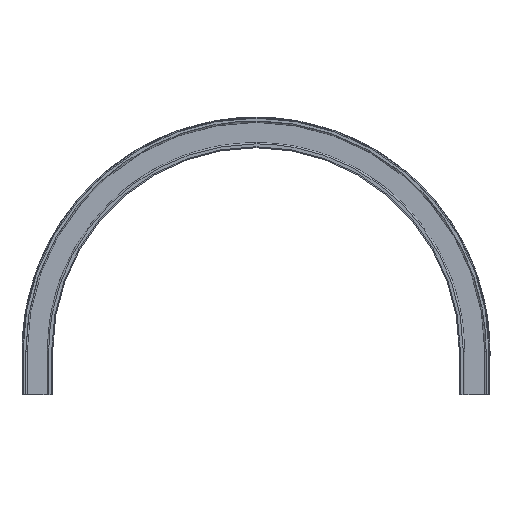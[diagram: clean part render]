
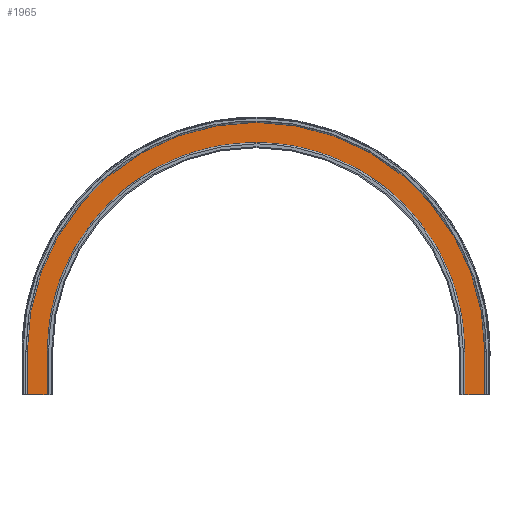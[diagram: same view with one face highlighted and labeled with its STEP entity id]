
A CAD part, front view. The second image highlights one B-rep face of the part: STEP entity #1965.
In plain terms, the highlighted planar face has unit normal (0, -1, 0).
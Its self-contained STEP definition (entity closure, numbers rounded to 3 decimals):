
#90 =( BOUNDED_CURVE ( )  B_SPLINE_CURVE ( 3, ( #3839, #3841, #3843, #3845 ),
 .UNSPECIFIED., .F., .T. ) 
 B_SPLINE_CURVE_WITH_KNOTS ( ( 4, 4 ),
 ( 0., 1. ),
 .UNSPECIFIED. ) 
 CURVE ( )  GEOMETRIC_REPRESENTATION_ITEM ( )  RATIONAL_B_SPLINE_CURVE ( ( 1., 0.805, 0.805, 1. ) ) 
 REPRESENTATION_ITEM ( '' )  );
#156 =( BOUNDED_CURVE ( )  B_SPLINE_CURVE ( 3, ( #7514, #7513, #7512, #7507 ),
 .UNSPECIFIED., .F., .T. ) 
 B_SPLINE_CURVE_WITH_KNOTS ( ( 4, 4 ),
 ( 0., 1. ),
 .UNSPECIFIED. ) 
 CURVE ( )  GEOMETRIC_REPRESENTATION_ITEM ( )  RATIONAL_B_SPLINE_CURVE ( ( 1., 0.805, 0.805, 1. ) ) 
 REPRESENTATION_ITEM ( '' )  );
#162 =( BOUNDED_CURVE ( )  B_SPLINE_CURVE ( 3, ( #3820, #3822, #3824, #3826 ),
 .UNSPECIFIED., .F., .F. ) 
 B_SPLINE_CURVE_WITH_KNOTS ( ( 4, 4 ),
 ( 0., 1. ),
 .UNSPECIFIED. ) 
 CURVE ( )  GEOMETRIC_REPRESENTATION_ITEM ( )  RATIONAL_B_SPLINE_CURVE ( ( 1., 0.805, 0.805, 1. ) ) 
 REPRESENTATION_ITEM ( '' )  );
#240 =( BOUNDED_CURVE ( )  B_SPLINE_CURVE ( 3, ( #7441, #7440, #7439, #7438 ),
 .UNSPECIFIED., .F., .T. ) 
 B_SPLINE_CURVE_WITH_KNOTS ( ( 4, 4 ),
 ( 0., 1. ),
 .UNSPECIFIED. ) 
 CURVE ( )  GEOMETRIC_REPRESENTATION_ITEM ( )  RATIONAL_B_SPLINE_CURVE ( ( 1., 0.805, 0.805, 1. ) ) 
 REPRESENTATION_ITEM ( '' )  );
#488 = AXIS2_PLACEMENT_3D ( 'NONE', #8371, #8370, #8369 ) ;
#1454 = CARTESIAN_POINT ( 'NONE',  ( 584.111, 246.202, 155.327 ) ) ;
#1710 = VERTEX_POINT ( 'NONE', #1454 ) ;
#1965 = ADVANCED_FACE ( 'NONE', ( #11752 ), #8372, .F. ) ;
#2997 = CARTESIAN_POINT ( 'NONE',  ( -415.889, 246.202, 55.327 ) ) ;
#3013 = CARTESIAN_POINT ( 'NONE',  ( 54.611, 246.202, 625.827 ) ) ;
#3031 = CARTESIAN_POINT ( 'NONE',  ( -474.889, 246.202, 155.327 ) ) ;
#3143 = CARTESIAN_POINT ( 'NONE',  ( 584.111, 246.202, 55.327 ) ) ;
#3193 = CARTESIAN_POINT ( 'NONE',  ( 525.111, 246.202, 55.327 ) ) ;
#3213 = CARTESIAN_POINT ( 'NONE',  ( 525.111, 246.202, 155.327 ) ) ;
#3479 = CARTESIAN_POINT ( 'NONE',  ( 54.611, 246.202, 684.827 ) ) ;
#3507 = CARTESIAN_POINT ( 'NONE',  ( -415.889, 246.202, 155.327 ) ) ;
#3669 = CARTESIAN_POINT ( 'NONE',  ( -474.889, 246.202, 55.327 ) ) ;
#3820 = CARTESIAN_POINT ( 'NONE',  ( 54.611, 246.202, 625.827 ) ) ;
#3822 = CARTESIAN_POINT ( 'NONE',  ( -221.002, 246.202, 625.827 ) ) ;
#3824 = CARTESIAN_POINT ( 'NONE',  ( -415.889, 246.202, 430.94 ) ) ;
#3826 = CARTESIAN_POINT ( 'NONE',  ( -415.889, 246.202, 155.327 ) ) ;
#3839 = CARTESIAN_POINT ( 'NONE',  ( -474.889, 246.202, 155.327 ) ) ;
#3841 = CARTESIAN_POINT ( 'NONE',  ( -474.889, 246.202, 465.501 ) ) ;
#3843 = CARTESIAN_POINT ( 'NONE',  ( -255.563, 246.202, 684.827 ) ) ;
#3845 = CARTESIAN_POINT ( 'NONE',  ( 54.611, 246.202, 684.827 ) ) ;
#6406 = EDGE_CURVE ( 'NONE', #10524, #1710, #156, .T. ) ;
#6410 = EDGE_CURVE ( 'NONE', #10620, #10287, #6944, .T. ) ;
#6431 = EDGE_CURVE ( 'NONE', #1710, #10343, #7280, .T. ) ;
#6446 = EDGE_CURVE ( 'NONE', #10368, #10378, #7257, .T. ) ;
#6450 = EDGE_CURVE ( 'NONE', #10538, #10270, #7246, .T. ) ;
#6455 = EDGE_CURVE ( 'NONE', #10378, #10278, #240, .T. ) ;
#6457 = EDGE_CURVE ( 'NONE', #10343, #10368, #7242, .T. ) ;
#6459 = EDGE_CURVE ( 'NONE', #10270, #10620, #7240, .T. ) ;
#6943 = VECTOR ( 'NONE', #7502, 1000. ) ;
#6944 = LINE ( 'NONE', #7503, #6943 ) ;
#7239 = VECTOR ( 'NONE', #7430, 1000. ) ;
#7240 = LINE ( 'NONE', #7431, #7239 ) ;
#7241 = VECTOR ( 'NONE', #7432, 1000. ) ;
#7242 = LINE ( 'NONE', #7433, #7241 ) ;
#7244 = VECTOR ( 'NONE', #7445, 1000. ) ;
#7246 = LINE ( 'NONE', #7446, #7244 ) ;
#7254 = VECTOR ( 'NONE', #7454, 1000. ) ;
#7257 = LINE ( 'NONE', #7455, #7254 ) ;
#7277 = VECTOR ( 'NONE', #7473, 1000. ) ;
#7280 = LINE ( 'NONE', #7474, #7277 ) ;
#7430 = DIRECTION ( 'NONE',  ( -1., 0., 0. ) ) ;
#7431 = CARTESIAN_POINT ( 'NONE',  ( -474.889, 246.202, 55.327 ) ) ;
#7432 = DIRECTION ( 'NONE',  ( -1., 0., 0. ) ) ;
#7433 = CARTESIAN_POINT ( 'NONE',  ( -474.889, 246.202, 55.327 ) ) ;
#7438 = CARTESIAN_POINT ( 'NONE',  ( 54.611, 246.202, 625.827 ) ) ;
#7439 = CARTESIAN_POINT ( 'NONE',  ( 330.223, 246.202, 625.827 ) ) ;
#7440 = CARTESIAN_POINT ( 'NONE',  ( 525.111, 246.202, 430.94 ) ) ;
#7441 = CARTESIAN_POINT ( 'NONE',  ( 525.111, 246.202, 155.327 ) ) ;
#7445 = DIRECTION ( 'NONE',  ( 0., 0., -1. ) ) ;
#7446 = CARTESIAN_POINT ( 'NONE',  ( -415.889, 246.202, 155.327 ) ) ;
#7454 = DIRECTION ( 'NONE',  ( 0., 0., 1. ) ) ;
#7455 = CARTESIAN_POINT ( 'NONE',  ( 525.111, 246.202, 155.327 ) ) ;
#7473 = DIRECTION ( 'NONE',  ( 0., 0., -1. ) ) ;
#7474 = CARTESIAN_POINT ( 'NONE',  ( 584.111, 246.202, 155.327 ) ) ;
#7502 = DIRECTION ( 'NONE',  ( 0., 0., 1. ) ) ;
#7503 = CARTESIAN_POINT ( 'NONE',  ( -474.889, 246.202, 155.327 ) ) ;
#7507 = CARTESIAN_POINT ( 'NONE',  ( 584.111, 246.202, 155.327 ) ) ;
#7512 = CARTESIAN_POINT ( 'NONE',  ( 584.111, 246.202, 465.501 ) ) ;
#7513 = CARTESIAN_POINT ( 'NONE',  ( 364.785, 246.202, 684.827 ) ) ;
#7514 = CARTESIAN_POINT ( 'NONE',  ( 54.611, 246.202, 684.827 ) ) ;
#8369 = DIRECTION ( 'NONE',  ( -1., 0., 0. ) ) ;
#8370 = DIRECTION ( 'NONE',  ( 0., 1., 0. ) ) ;
#8371 = CARTESIAN_POINT ( 'NONE',  ( -474.889, 246.202, 155.327 ) ) ;
#8372 = PLANE ( 'NONE',  #488 ) ;
#9271 = ORIENTED_EDGE ( 'NONE', *, *, #6459, .F. ) ;
#9272 = ORIENTED_EDGE ( 'NONE', *, *, #6410, .F. ) ;
#9273 = ORIENTED_EDGE ( 'NONE', *, *, #10943, .F. ) ;
#9274 = ORIENTED_EDGE ( 'NONE', *, *, #6406, .F. ) ;
#9275 = ORIENTED_EDGE ( 'NONE', *, *, #6431, .F. ) ;
#9276 = ORIENTED_EDGE ( 'NONE', *, *, #6457, .F. ) ;
#10270 = VERTEX_POINT ( 'NONE', #2997 ) ;
#10278 = VERTEX_POINT ( 'NONE', #3013 ) ;
#10287 = VERTEX_POINT ( 'NONE', #3031 ) ;
#10343 = VERTEX_POINT ( 'NONE', #3143 ) ;
#10368 = VERTEX_POINT ( 'NONE', #3193 ) ;
#10378 = VERTEX_POINT ( 'NONE', #3213 ) ;
#10524 = VERTEX_POINT ( 'NONE', #3479 ) ;
#10538 = VERTEX_POINT ( 'NONE', #3507 ) ;
#10620 = VERTEX_POINT ( 'NONE', #3669 ) ;
#10941 = EDGE_CURVE ( 'NONE', #10278, #10538, #162, .T. ) ;
#10943 = EDGE_CURVE ( 'NONE', #10287, #10524, #90, .T. ) ;
#11752 = FACE_OUTER_BOUND ( 'NONE', #12448, .T. ) ;
#12448 = EDGE_LOOP ( 'NONE', ( #12507, #12506, #12505, #12504, #9276, #9275, #9274, #9273, #9272, #9271 ) ) ;
#12504 = ORIENTED_EDGE ( 'NONE', *, *, #6446, .F. ) ;
#12505 = ORIENTED_EDGE ( 'NONE', *, *, #6455, .F. ) ;
#12506 = ORIENTED_EDGE ( 'NONE', *, *, #10941, .F. ) ;
#12507 = ORIENTED_EDGE ( 'NONE', *, *, #6450, .F. ) ;
